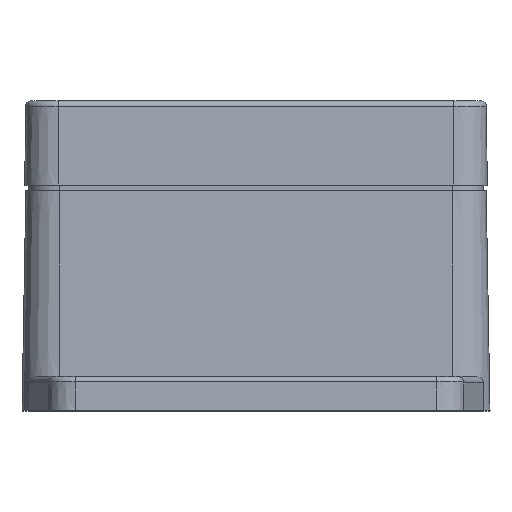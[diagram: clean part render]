
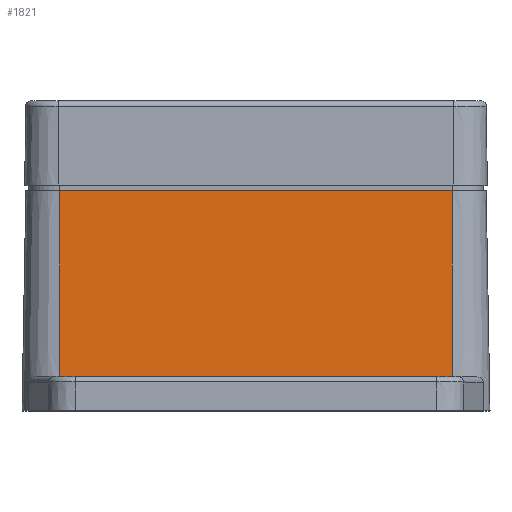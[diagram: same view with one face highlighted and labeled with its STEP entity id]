
A CAD part, top view. The second image highlights one B-rep face of the part: STEP entity #1821.
In plain terms, the highlighted planar face has unit normal (0, 0.018, 1).
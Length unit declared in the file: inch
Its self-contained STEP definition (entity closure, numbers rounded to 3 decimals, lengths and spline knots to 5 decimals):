
#257 = VECTOR ( 'NONE', #3962, 39.37008 ) ;
#456 = LINE ( 'NONE', #2036, #10488 ) ;
#1821 = ADVANCED_FACE ( 'NONE', ( #9410 ), #7323, .T. ) ;
#2036 = CARTESIAN_POINT ( 'NONE',  ( -1.37795, 0., 1.5775 ) ) ;
#3888 = VERTEX_POINT ( 'NONE', #15899 ) ;
#3962 = DIRECTION ( 'NONE',  ( 0., 1., -0.017 ) ) ;
#4112 = CARTESIAN_POINT ( 'NONE',  ( -1.37795, -1.30421, 1.60027 ) ) ;
#4882 = CARTESIAN_POINT ( 'NONE',  ( 0., -1.30421, 1.60027 ) ) ;
#4959 = DIRECTION ( 'NONE',  ( 1., 0., 0. ) ) ;
#6773 = LINE ( 'NONE', #14941, #16774 ) ;
#7323 = PLANE ( 'NONE',  #10196 ) ;
#8352 = CARTESIAN_POINT ( 'NONE',  ( 1.37795, 0., 1.5775 ) ) ;
#8711 = EDGE_CURVE ( 'NONE', #3888, #16510, #6773, .T. ) ;
#9292 = EDGE_CURVE ( 'NONE', #9503, #16510, #19399, .T. ) ;
#9410 = FACE_OUTER_BOUND ( 'NONE', #24355, .T. ) ;
#9503 = VERTEX_POINT ( 'NONE', #21443 ) ;
#10196 = AXIS2_PLACEMENT_3D ( 'NONE', #12671, #14532, #10709 ) ;
#10488 = VECTOR ( 'NONE', #18923, 39.37008 ) ;
#10709 = DIRECTION ( 'NONE',  ( 0., -1., 0.017 ) ) ;
#10881 = ORIENTED_EDGE ( 'NONE', *, *, #23682, .T. ) ;
#10918 = ORIENTED_EDGE ( 'NONE', *, *, #9292, .T. ) ;
#12671 = CARTESIAN_POINT ( 'NONE',  ( 0., 0., 1.5775 ) ) ;
#13339 = CARTESIAN_POINT ( 'NONE',  ( 1.37795, 0., 1.5775 ) ) ;
#14532 = DIRECTION ( 'NONE',  ( 0., 0.017, 1. ) ) ;
#14673 = VECTOR ( 'NONE', #4959, 39.37008 ) ;
#14694 = DIRECTION ( 'NONE',  ( 1., 0., 0. ) ) ;
#14941 = CARTESIAN_POINT ( 'NONE',  ( -1.37795, 0., 1.5775 ) ) ;
#15300 = VERTEX_POINT ( 'NONE', #4112 ) ;
#15879 = ORIENTED_EDGE ( 'NONE', *, *, #18580, .F. ) ;
#15899 = CARTESIAN_POINT ( 'NONE',  ( -1.37795, 0., 1.5775 ) ) ;
#16510 = VERTEX_POINT ( 'NONE', #8352 ) ;
#16537 = ORIENTED_EDGE ( 'NONE', *, *, #8711, .F. ) ;
#16774 = VECTOR ( 'NONE', #14694, 39.37008 ) ;
#17607 = LINE ( 'NONE', #4882, #14673 ) ;
#18580 = EDGE_CURVE ( 'NONE', #15300, #3888, #456, .T. ) ;
#18923 = DIRECTION ( 'NONE',  ( 0., 1., -0.017 ) ) ;
#19399 = LINE ( 'NONE', #13339, #257 ) ;
#21443 = CARTESIAN_POINT ( 'NONE',  ( 1.37795, -1.30421, 1.60027 ) ) ;
#23682 = EDGE_CURVE ( 'NONE', #15300, #9503, #17607, .T. ) ;
#24355 = EDGE_LOOP ( 'NONE', ( #15879, #10881, #10918, #16537 ) ) ;
